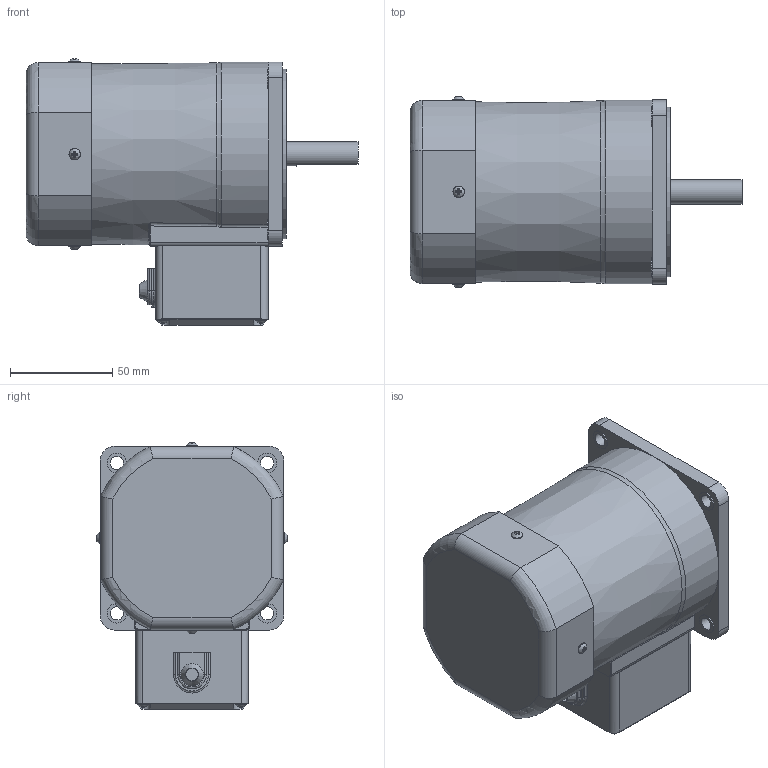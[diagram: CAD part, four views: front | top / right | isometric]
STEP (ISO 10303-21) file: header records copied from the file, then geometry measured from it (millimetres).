
FILE_DESCRIPTION((''),'2;1');
FILE_NAME('D:\STP파일\60W MOTOR\T1 BOX TYPE\S9I60D-T1.stp','2013-05-20T18:12:05',('leebh'),(''),'Autodesk Inventor 2011','Autodesk Inventor 2011','');
FILE_SCHEMA(('AUTOMOTIVE_DESIGN { 1 0 10303 214 1 1 1 1 }'));
Length unit declared in the file: millimetre
Products named in the file (1): 부품1
Bounding box: 162.41 x 93.49 x 130.55 mm (x, y, z)
Volume: 944975.5 mm3; surface area: 67673.3 mm2
Topology: 1 solids, 6 shells, 325 faces, 813 edges, 518 vertices
Faces by surface type: plane 188, cylinder 77, torus 27, bspline 26, cone 7
Full cylindrical faces by diameter (mm): 3 x4, 3.5 x4, 5.6 x8, 6.5 x4, 8 x1, 9.5 x4, 12 x1, 40 x1, 83 x1
Entity records: 10468 total; most frequent: CARTESIAN_POINT 3030, ORIENTED_EDGE 1478, DIRECTION 1408, EDGE_CURVE 739, AXIS2_PLACEMENT_3D 508, VERTEX_POINT 506, EDGE_LOOP 419, VECTOR 392
